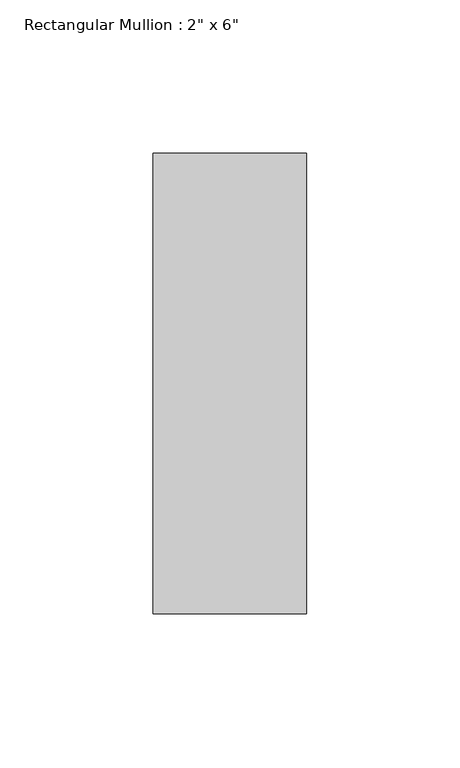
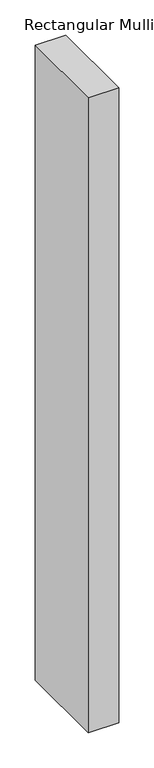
"""IFC4 building model written with IfcOpenShell, lengths in millimetres: member geometry."""

from ifc_helpers import new_model, si_unit, frame, origin, place, context, project, spatial, polyline, outline, extrude, source, transform, mapped, element, save


def member_d0ecf68c(model_context):
    return source(origin(), model_context, "Body", "SweptSolid", [
        extrude(outline(polyline([(0.0, 0.0), (0.0, -150.0), (-50.0, -150.0), (-50.0, 0.0), (0.0, 0.0)])), frame((0.0, 0.0, -1100.0), z_axis=(0.0, 0.0, 1.0), x_axis=(1.0, 0.0, 0.0)), (0.0, 0.0, 1.0), 1100.0),
    ])


if __name__ == "__main__":
    model = new_model("IFC4")
    model_context = context("Model", 3, world=origin())
    ifc_project = project(units=[si_unit("LENGTHUNIT", "METRE", prefix="MILLI")], contexts=[model_context])
    site = spatial("IfcSite", under=ifc_project)
    building = spatial("IfcBuilding", under=site)
    placement = place(None, origin())
    member_shape = member_d0ecf68c(model_context)
    element("IfcMember", 1, ObjectType="Rectangular Mullion : 2\" x 6\"", at=placement, inside=building, context=model_context, shape_type="MappedRepresentation", body=[
        mapped(member_shape, transform((0.0, 0.0, 0.0), x_axis=(1.0, 0.0, 0.0), y_axis=(0.0, 1.0, 0.0), z_axis=(0.0, 0.0, 1.0))),
    ])
    save(model, "model.ifc")
